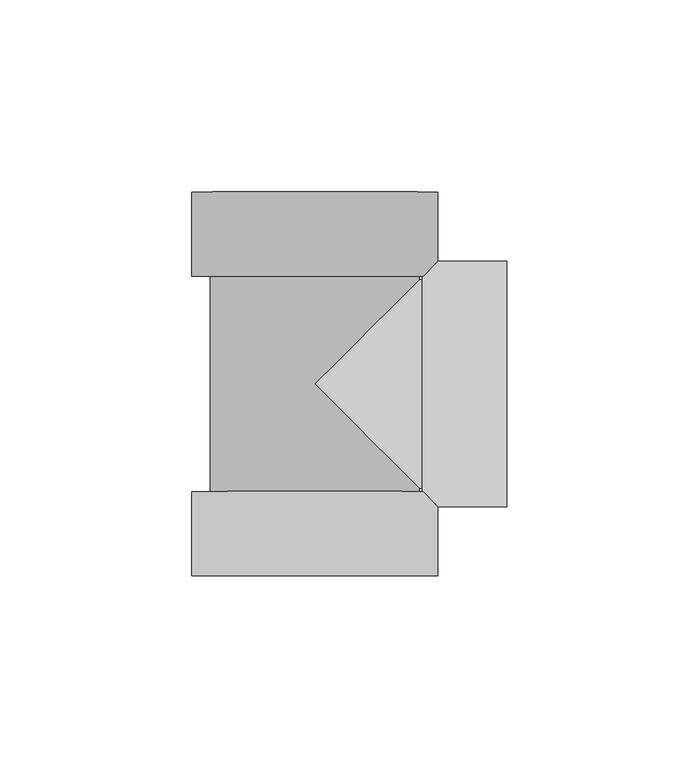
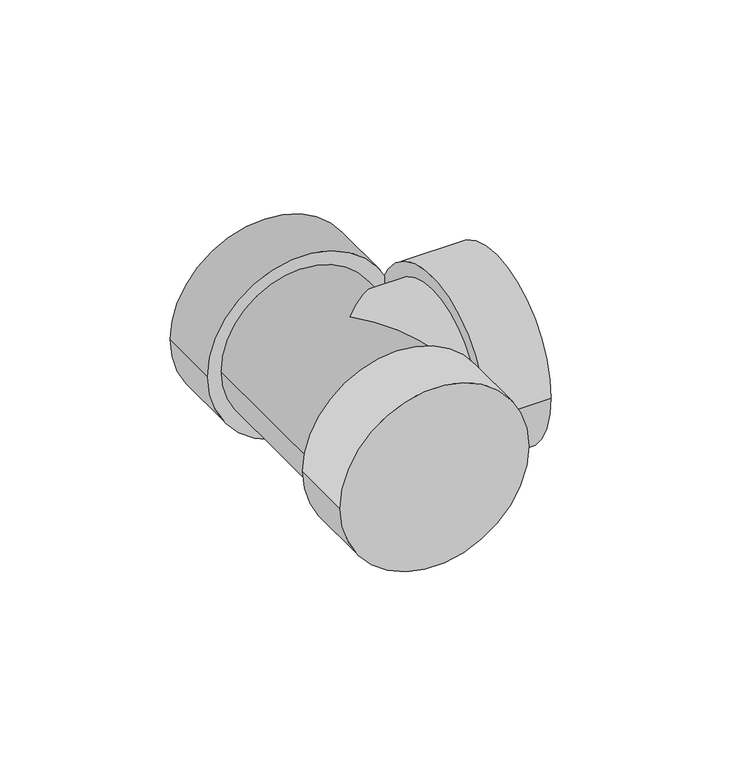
"""IFC4 building model written with IfcOpenShell, lengths in millimetres: pipe fitting geometry, 01011003 : Tes 90º."""

from ifc_helpers import new_model, si_unit, point, frame, origin, origin_2d, place, context, project, spatial, circle_curve, ellipse_curve, trimmed, segment, composite_curve, outline, extrude, source, transform, mapped, element, save
from ifc_brep_helpers import plane_surface, cylinder_surface, advanced_brep


def pipe_fitting_87810283(model_context):
    return source(origin(), model_context, "Body", "SolidModel", [
        advanced_brep(
        [(-27.2, 30.0, 0.0), (27.2, 30.0, 0.0), (-27.2, -30.0, 0.0), (27.2, -30.0, 0.0), (27.2, -27.2, 0.0), (0.0, 0.0, 27.2), (27.2, 27.2, 0.0), (0.0, 0.0, -27.2), (30.0, 27.2, 0.0), (30.0, -27.2, 0.0)],
        [
            (0, 1, circle_curve(frame((0.0, 30.0, 0.0), z_axis=(0.0, 1.0, 0.0), x_axis=(1.0, 0.0, 0.0)), 27.2)),
            (1, 0, circle_curve(frame((0.0, 30.0, 0.0), z_axis=(0.0, 1.0, 0.0), x_axis=(1.0, 0.0, 0.0)), 27.2)),
            (2, 3, circle_curve(frame((0.0, -30.0, 0.0), z_axis=(0.0, -1.0, 0.0), x_axis=(1.0, 0.0, 0.0)), 27.2)),
            (3, 2, circle_curve(frame((0.0, -30.0, 0.0), z_axis=(0.0, -1.0, 0.0), x_axis=(1.0, 0.0, 0.0)), 27.2)),
            (0, 2),
            (3, 4),
            (4, 5, ellipse_curve(frame((0.0, 0.0, 0.0), z_axis=(-0.7071067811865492, -0.7071067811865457, 0.0), x_axis=(-0.7071067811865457, 0.7071067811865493, 0.0)), 38.4666089, 27.2)),
            (5, 6, ellipse_curve(frame((0.0, 0.0, 0.0), z_axis=(-0.7071067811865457, 0.7071067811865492, 0.0), x_axis=(0.7071067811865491, 0.7071067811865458, 0.0)), 38.4666089, 27.2)),
            (6, 1),
            (6, 7, ellipse_curve(frame((0.0, 0.0, 0.0), z_axis=(-0.7071067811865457, 0.7071067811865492, 0.0), x_axis=(0.7071067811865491, 0.7071067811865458, 0.0)), 38.4666089, 27.2)),
            (7, 4, ellipse_curve(frame((0.0, 0.0, 0.0), z_axis=(-0.7071067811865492, -0.7071067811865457, 0.0), x_axis=(-0.7071067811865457, 0.7071067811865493, 0.0)), 38.4666089, 27.2)),
            (8, 9, circle_curve(frame((30.0, 0.0, 0.0), z_axis=(1.0, 0.0, 0.0), x_axis=(0.0, -1.0, 0.0)), 27.2)),
            (9, 8, circle_curve(frame((30.0, 0.0, 0.0), z_axis=(1.0, 0.0, 0.0), x_axis=(0.0, -1.0, 0.0)), 27.2)),
            (8, 6),
            (4, 9),
        ],
        [
            plane_surface(frame((0.0, 30.0, 0.0), z_axis=(0.0, 1.0, 0.0), x_axis=(0.0, 0.0, 1.0))),
            plane_surface(frame((0.0, -30.0, 0.0), z_axis=(0.0, -1.0, 0.0), x_axis=(0.0, 0.0, 1.0))),
            cylinder_surface(frame((0.0, 30.0, 0.0), z_axis=(0.0, 1.0, 0.0), x_axis=(1.0, 0.0, 0.0)), 27.2),
            plane_surface(frame((30.0, 0.0, 0.0), z_axis=(1.0, 0.0, 0.0), x_axis=(0.0, 0.0, 1.0))),
            cylinder_surface(frame((30.0, 0.0, 0.0), z_axis=(1.0, 0.0, 0.0), x_axis=(0.0, -1.0, 0.0)), 27.2),
        ],
        [
            (0, [[1, 2]]),
            (1, [[3, 4]]),
            (2, [[-1, 5, -4, 6, 7, 8, 9]]),
            (2, [[-2, -9, 10, 11, -6, -3, -5]]),
            (3, [[12, 13]]),
            (4, [[-12, 14, -8, -7, 15]]),
            (4, [[-13, -15, -11, -10, -14]]),
        ],
    ),
        extrude(outline(composite_curve([segment(trimmed(circle_curve(origin_2d(), 32.0), [point((0.0, -32.0))], [point((0.0, 32.0))], False, "CARTESIAN"), True, "CONTINUOUS"), segment(trimmed(circle_curve(origin_2d(), 32.0), [point((0.0, 32.0))], [point((0.0, -32.0))], False, "CARTESIAN"), True, "CONTINUOUS")], self_intersect=False)), frame((0.0, 28.0, 0.0), z_axis=(0.0, 1.0, 0.0), x_axis=(0.0, 0.0, 1.0)), (0.0, 0.0, 1.0), 22.0),
        extrude(outline(composite_curve([segment(trimmed(circle_curve(origin_2d(), 32.0), [point((0.0, 32.0))], [point((0.0, -32.0))], False, "CARTESIAN"), True, "CONTINUOUS"), segment(trimmed(circle_curve(origin_2d(), 32.0), [point((0.0, -32.0))], [point((0.0, 32.0))], False, "CARTESIAN"), True, "CONTINUOUS")], self_intersect=False)), frame((0.0, -50.0, 0.0), z_axis=(0.0, 1.0, 0.0), x_axis=(0.0, 0.0, 1.0)), (0.0, 0.0, 1.0), 22.0),
        extrude(outline(composite_curve([segment(trimmed(circle_curve(origin_2d(), 32.0), [point((32.0, 0.0))], [point((-32.0, 0.0))], False, "CARTESIAN"), True, "CONTINUOUS"), segment(trimmed(circle_curve(origin_2d(), 32.0), [point((-32.0, 0.0))], [point((32.0, 0.0))], False, "CARTESIAN"), True, "CONTINUOUS")], self_intersect=False)), frame((28.0, 0.0, 0.0), z_axis=(1.0, 0.0, 0.0), x_axis=(0.0, 1.0, 0.0)), (0.0, 0.0, 1.0), 22.0),
    ])


if __name__ == "__main__":
    model = new_model("IFC4")
    model_context = context("Model", 3, world=origin())
    ifc_project = project(units=[si_unit("LENGTHUNIT", "METRE", prefix="MILLI")], contexts=[model_context])
    site = spatial("IfcSite", under=ifc_project)
    building = spatial("IfcBuilding", under=site)
    placement = place(None, origin())
    pipe_fitting_shape = pipe_fitting_87810283(model_context)
    element("IfcPipeFitting", 1, ObjectType="01011003 : Tes 90º", at=placement, inside=building, context=model_context, shape_type="MappedRepresentation", body=[
        mapped(pipe_fitting_shape, transform((0.0, 0.0, 0.0), x_axis=(1.0, 0.0, 0.0), y_axis=(0.0, 1.0, 0.0), z_axis=(0.0, 0.0, 1.0))),
    ])
    save(model, "model.ifc")
